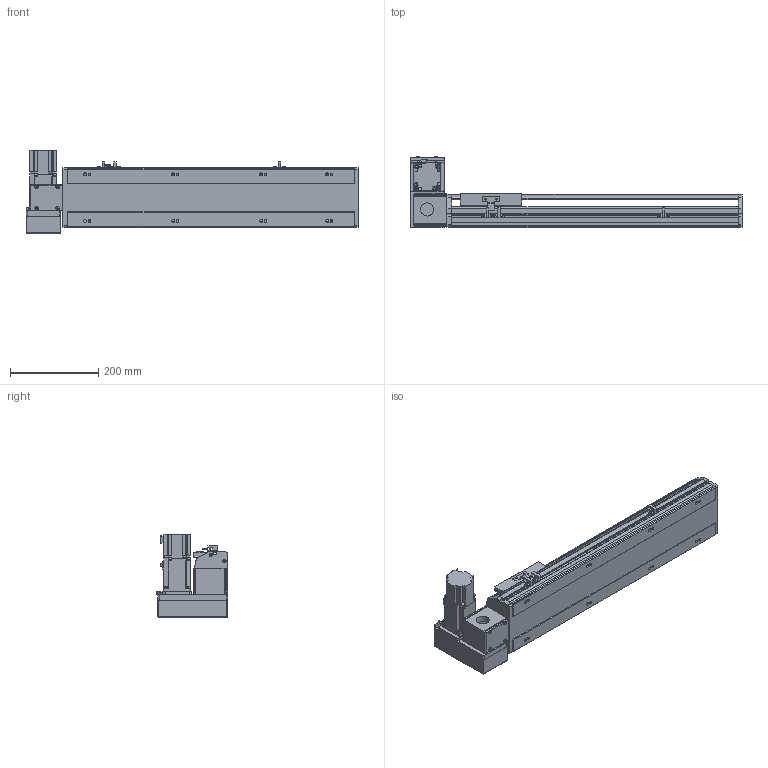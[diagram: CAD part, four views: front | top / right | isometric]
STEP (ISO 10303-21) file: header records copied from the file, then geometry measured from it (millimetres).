
FILE_DESCRIPTION( ( 'STEP AP214' ), '1' );
FILE_NAME( 'x:/temp/worker_2/temp/exporttempdir_6476_467_jRE9E/format_0/PBS140-P40-S400-LU-T40-C1-N(0).stp', '2022-06-07T05:15:59', ( 'License CC BY-ND 4.0' ), ( 'CADENAS' ), ' ', 'PARTsolutions', ' ' );
FILE_SCHEMA( ( 'AUTOMOTIVE_DESIGN { 1 0 10303 214 1 1 1 1 }' ) );
Length unit declared in the file: millimetre
Products named in the file (7): PBS140-P40-S400-LU-T40-C1-N(0); _PBS140-S400()_body; _PBS140T-LU_motors; _T40-p1; _PBS140_sliser; _PBS140_plant; _PBS140_sensor
Assembly tree (8 placements, depth 2):
  PBS140-P40-S400-LU-T40-C1-N(0)
    _PBS140-S400()_body
    _PBS140T-LU_motors
    _T40-p1
    _PBS140_sliser
    _PBS140_plant
    _PBS140_sensor  x3
Bounding box: 754 x 162.5 x 189.7 mm (x, y, z)
Volume: 3998367.2 mm3; surface area: 723362.1 mm2
Topology: 8 solids, 8 shells, 1011 faces, 2676 edges, 1749 vertices
Faces by surface type: plane 668, cylinder 299, cone 34, sphere 8, torus 2
Full cylindrical faces by diameter (mm): 3.242 x4, 4 x2, 4.134 x4, 4.4 x8, 4.5 x2, 4.8 x4, 4.917 x16, 5.5 x7, 6 x2, 7 x10, 7.5 x8, 8 x12, 8.5 x4, 10.5 x8, 14 x1, 30 x2, 50 x2
Entity records: 36721 total; most frequent: CARTESIAN_POINT 5579, DIRECTION 4917, ORIENTED_EDGE 4672, EDGE_CURVE 2336, AXIS2_PLACEMENT_3D 1687, VERTEX_POINT 1605, LINE 1543, VECTOR 1543
